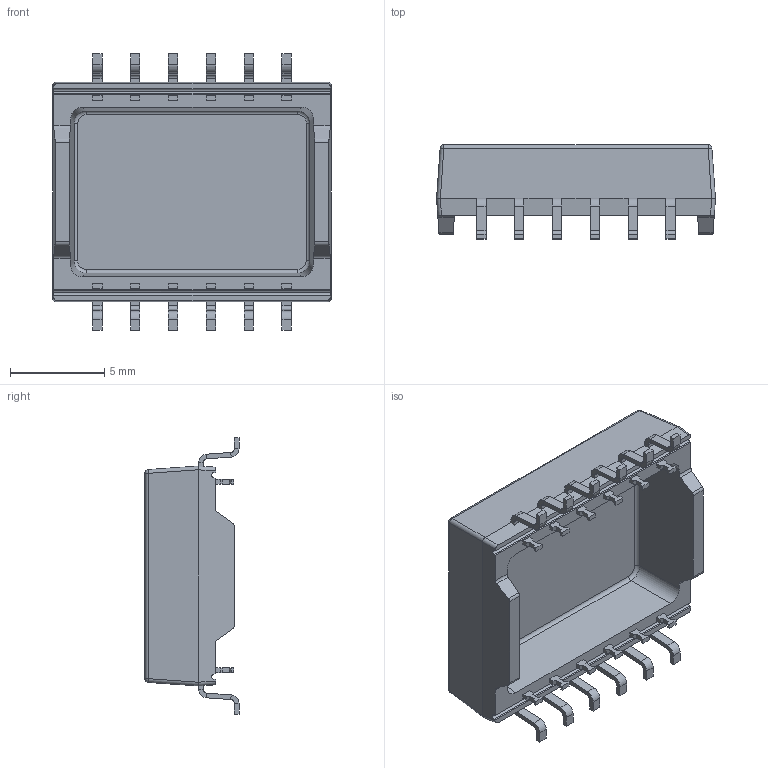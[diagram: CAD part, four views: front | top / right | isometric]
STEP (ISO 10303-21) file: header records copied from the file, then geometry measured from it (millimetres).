
FILE_DESCRIPTION (( 'STEP AP203' ), '1' );
FILE_NAME ('S125xx.STEP', '2025-07-02T09:57:15', ( '' ), ( '' ), 'SwSTEP 2.0', 'SolidWorks 2022', '' );
FILE_SCHEMA (( 'CONFIG_CONTROL_DESIGN' ));
Length unit declared in the file: millimetre
Products named in the file (3): S125xx Case; S125xx Pin; S125xx
Assembly tree (13 placements, depth 2):
  S125xx
    S125xx Case
    S125xx Pin  x12
Bounding box: 14.81 x 5 x 14.7 mm (x, y, z)
Volume: 317.4 mm3; surface area: 791.5 mm2
Topology: 13 solids, 13 shells, 625 faces, 1490 edges, 880 vertices
Faces by surface type: plane 487, cylinder 130, bspline 4, sphere 4
Entity records: 7153 total; most frequent: CARTESIAN_POINT 1341, ORIENTED_EDGE 1132, DIRECTION 1044, EDGE_CURVE 566, VECTOR 438, LINE 438, VERTEX_POINT 352, AXIS2_PLACEMENT_3D 303
